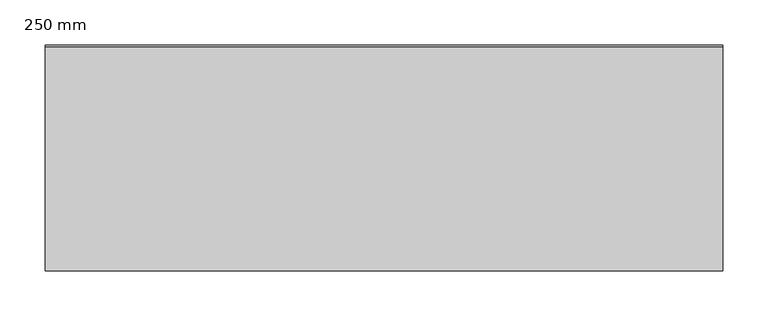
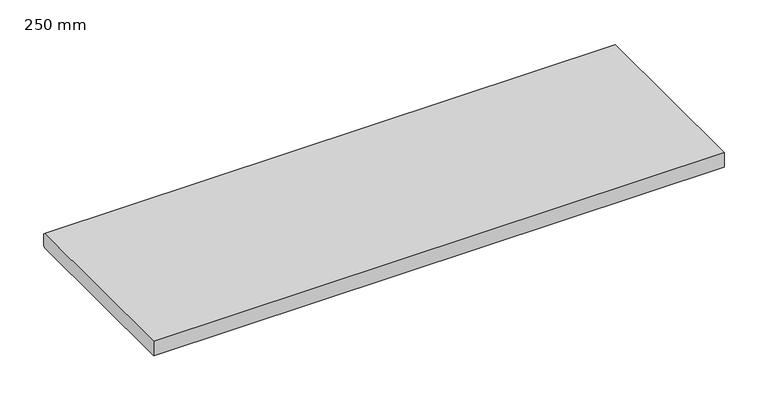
"""IFC4 building model written with IfcOpenShell, lengths in millimetres: proxy geometry, 400_35_NS_vensterbank : 250 mm."""

from ifc_helpers import new_model, si_unit, frame, origin, place, context, project, spatial, polyline, outline, extrude, source, transform, mapped, element, save


def proxy_250_mm_6b778dde(model_context):
    return source(origin(), model_context, "Body", "SweptSolid", [
        extrude(outline(polyline([(0.0, 0.0), (0.0, 20.0), (248.0, 20.0), (250.0, 18.0), (250.0, 2.0), (248.0, 0.0), (0.0, 0.0)])), frame((-375.0, 0.0, 0.0), z_axis=(1.0, 0.0, 0.0), x_axis=(0.0, 1.0, 0.0)), (0.0, 0.0, 1.0), 750.0),
    ])


if __name__ == "__main__":
    model = new_model("IFC4")
    model_context = context("Model", 3, world=origin())
    ifc_project = project(units=[si_unit("LENGTHUNIT", "METRE", prefix="MILLI")], contexts=[model_context])
    site = spatial("IfcSite", under=ifc_project)
    building = spatial("IfcBuilding", under=site)
    placement = place(None, origin())
    proxy_250_mm_shape = proxy_250_mm_6b778dde(model_context)
    element("IfcBuildingElementProxy", 1, Name="400_35_NS_vensterbank : 250 mm", ObjectType="400_35_NS_vensterbank : 250 mm", at=placement, inside=building, context=model_context, shape_type="MappedRepresentation", body=[
        mapped(proxy_250_mm_shape, transform((0.0, 0.0, 0.0), x_axis=(1.0, 0.0, 0.0), y_axis=(0.0, 1.0, 0.0), z_axis=(0.0, 0.0, 1.0))),
    ])
    save(model, "model.ifc")
